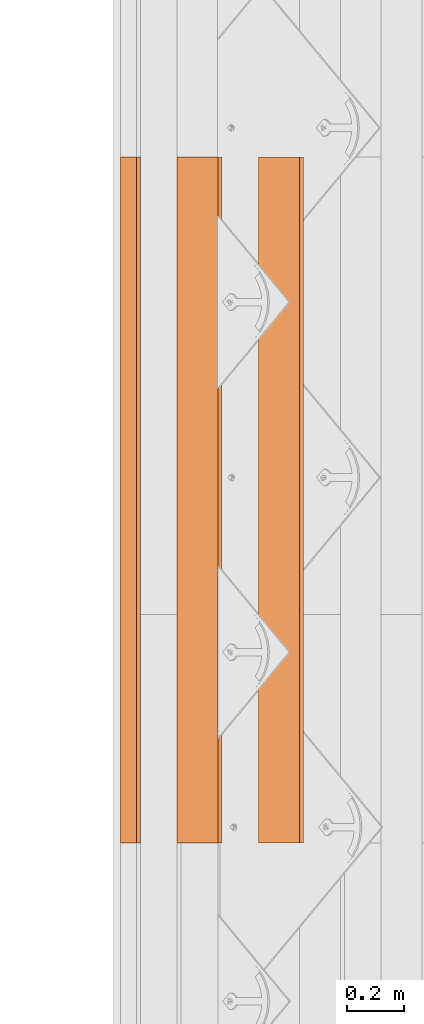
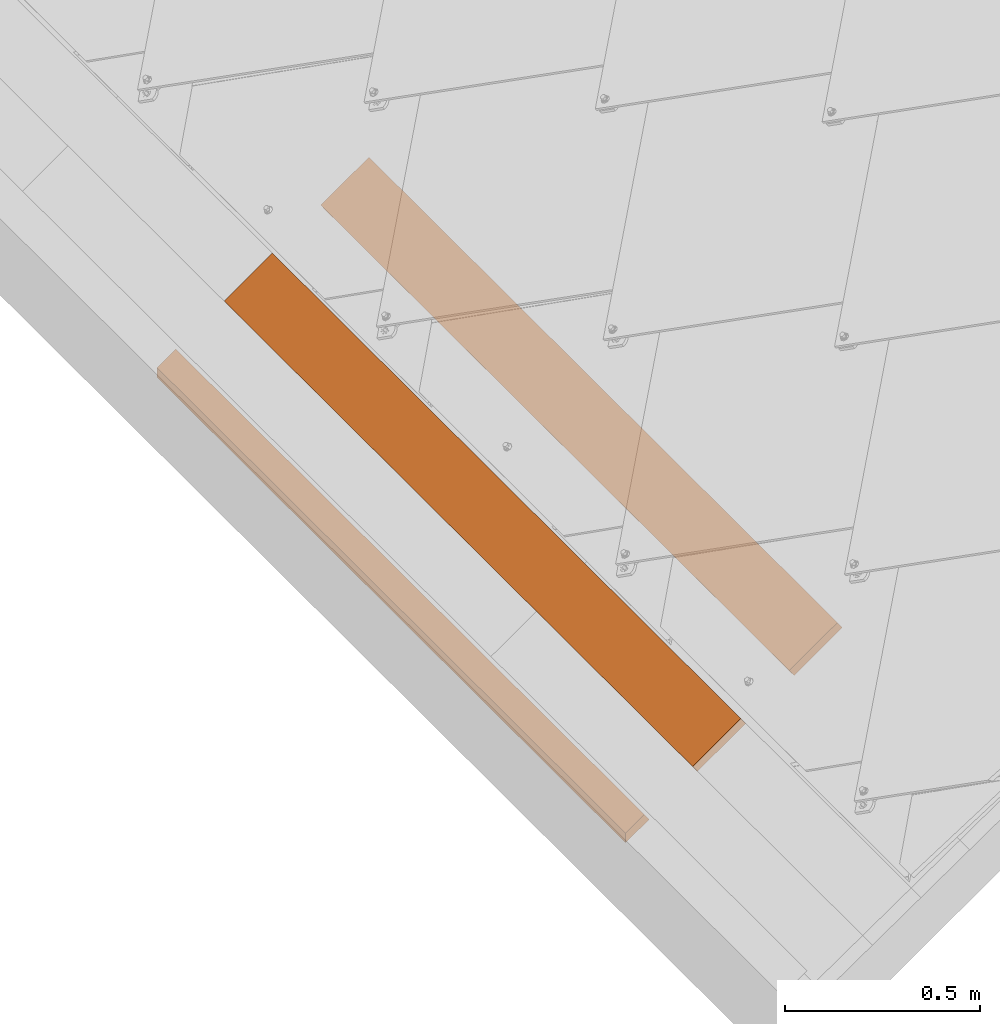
# One storey, part 24 of 151: 3 proxies, 1 element without a shape of its own.
"""IFC2X3 building model written with IfcOpenShell, lengths in millimetres."""

from ifc_helpers import new_model, entity, si_unit, converted_unit, derived_unit, direction, frame, frame_2d, origin, place, context, subcontext, project, spatial, polyline, rectangle, outline, extrude, source, transform, mapped, material, type_object, type_shapes, element, aggregate, save


model = new_model("IFC2X3")

# Units and contexts
model_context = context("Model", 3, precision=0.01, world=origin(), true_north=direction((6.12303176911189e-17, 1.0)))
body_context = subcontext(model_context, "Body", "Model", "MODEL_VIEW")
ifc_project = project(units=[si_unit("LENGTHUNIT", "METRE", prefix="MILLI"), si_unit("AREAUNIT", "SQUARE_METRE"), si_unit("VOLUMEUNIT", "CUBIC_METRE"), converted_unit("PLANEANGLEUNIT", "DEGREE", entity("IfcRatioMeasure", 0.0174532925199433), si_unit("PLANEANGLEUNIT", "RADIAN"), dimensions=[0, 0, 0, 0, 0, 0, 0]), si_unit("MASSUNIT", "GRAM", prefix="KILO"), derived_unit("MASSDENSITYUNIT", [(si_unit("MASSUNIT", "GRAM", prefix="KILO"), 1), (si_unit("LENGTHUNIT", "METRE"), -3)]), si_unit("TIMEUNIT", "SECOND"), si_unit("FREQUENCYUNIT", "HERTZ"), si_unit("THERMODYNAMICTEMPERATUREUNIT", "DEGREE_CELSIUS"), derived_unit("THERMALTRANSMITTANCEUNIT", [(si_unit("MASSUNIT", "GRAM", prefix="KILO"), 1), (si_unit("THERMODYNAMICTEMPERATUREUNIT", "KELVIN"), -1), (si_unit("TIMEUNIT", "SECOND"), -3)]), derived_unit("VOLUMETRICFLOWRATEUNIT", [(si_unit("LENGTHUNIT", "METRE"), 3), (si_unit("TIMEUNIT", "SECOND"), -1)]), si_unit("ELECTRICCURRENTUNIT", "AMPERE"), si_unit("ELECTRICVOLTAGEUNIT", "VOLT"), si_unit("POWERUNIT", "WATT"), si_unit("FORCEUNIT", "NEWTON", prefix="KILO"), si_unit("ILLUMINANCEUNIT", "LUX"), si_unit("LUMINOUSFLUXUNIT", "LUMEN"), si_unit("LUMINOUSINTENSITYUNIT", "CANDELA"), derived_unit("USERDEFINED", [(si_unit("MASSUNIT", "GRAM", prefix="KILO"), -1), (si_unit("LENGTHUNIT", "METRE"), -2), (si_unit("TIMEUNIT", "SECOND"), 3), (si_unit("LUMINOUSFLUXUNIT", "LUMEN"), 1)]), derived_unit("LINEARVELOCITYUNIT", [(si_unit("LENGTHUNIT", "METRE"), 1), (si_unit("TIMEUNIT", "SECOND"), -1)]), si_unit("PRESSUREUNIT", "PASCAL"), derived_unit("USERDEFINED", [(si_unit("LENGTHUNIT", "METRE"), -2), (si_unit("MASSUNIT", "GRAM", prefix="KILO"), 1), (si_unit("TIMEUNIT", "SECOND"), -2)])], contexts=[model_context])

# Site, building, storey
site_placement = place(None, origin())
site = spatial("IfcSite", under=ifc_project, at=site_placement, Name="Default", CompositionType="ELEMENT")
building_placement = place(site_placement, origin())
building = spatial("IfcBuilding", under=site, at=building_placement, CompositionType="ELEMENT")
storey_placement = place(building_placement, origin())
storey = spatial("IfcBuildingStorey", under=building, at=storey_placement, Name="Level 1", CompositionType="ELEMENT", Elevation=0.0)

# Assembly, proxies
assembly_placement = place(storey_placement, origin())
assembly = element("IfcElementAssembly", 1, at=assembly_placement, inside=storey, Name="Structural Framing Assembly:Roof Construction Assembly", ObjectType="Structural Framing Assembly:Roof Construction Assembly", AssemblyPlace="NOTDEFINED", PredefinedType="USERDEFINED")
ifc_material = material(Name="Wood - Generic - Wood For Showcase")
building_element_proxy_type_1 = type_object("IfcBuildingElementProxyType", Name="Structural Framing 15", PredefinedType="NOTDEFINED", material=ifc_material)
shared_shape_1 = source(origin(), body_context, "Body", "SweptSolid", [
    extrude(rectangle(XDim=24.9999999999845, YDim=174.344679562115, at=frame_2d((-1.77635683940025e-13, -4.54747350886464e-13), x_axis=(0.0, 1.0))), frame((1128.20180147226, 1595.55080214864, 2760.23940055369), z_axis=(0.0, 1.0, 0.0), x_axis=(-0.819152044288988, 0.0, -0.573576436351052)), (0.0, 0.0, 1.0), 2400.00000000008),
])
type_shapes(building_element_proxy_type_1, [shared_shape_1])
proxy_1_placement = place(assembly_placement, frame((-3227.25254439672, -5740.0, -2300.0)))
proxy_1 = element("IfcBuildingElementProxy", 2, at=proxy_1_placement, type_object=building_element_proxy_type_1, material=ifc_material, Name="Structural Framing 132:Structural Framing 15", ObjectType="Structural Framing 132:Structural Framing 15", context=body_context, shape_type="MappedRepresentation", body=[
    mapped(shared_shape_1, transform((0.0, 0.0, 0.0), scale=1.0)),
])
building_element_proxy_type_2 = type_object("IfcBuildingElementProxyType", Name="Structural Framing 15", PredefinedType="NOTDEFINED", material=ifc_material)
shared_shape_2 = source(origin(), body_context, "Body", "SweptSolid", [
    extrude(rectangle(XDim=24.9999999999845, YDim=174.344679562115, at=frame_2d((-1.77635683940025e-13, -4.54747350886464e-13), x_axis=(0.0, 1.0))), frame((1128.20180147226, 1595.55080214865, 2760.23940055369), z_axis=(0.0, 1.0, 0.0), x_axis=(-0.819152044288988, 0.0, -0.573576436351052)), (0.0, 0.0, 1.0), 2400.00000000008),
])
type_shapes(building_element_proxy_type_2, [shared_shape_2])
proxy_2_placement = place(assembly_placement, frame((-3512.88214574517, -5740.0, -2500.0)))
proxy_2 = element("IfcBuildingElementProxy", 3, at=proxy_2_placement, type_object=building_element_proxy_type_2, material=ifc_material, Name="Structural Framing 142:Structural Framing 15", ObjectType="Structural Framing 142:Structural Framing 15", context=body_context, shape_type="MappedRepresentation", body=[
    mapped(shared_shape_2, transform((0.0, 0.0, 0.0), scale=1.0)),
])
building_element_proxy_type_3 = type_object("IfcBuildingElementProxyType", Name="Structural Framing 15", PredefinedType="NOTDEFINED", material=ifc_material)
shared_shape_3 = source(origin(), body_context, "Body", "SweptSolid", [
    extrude(outline(polyline([(-38.2231230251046, -12.499999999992), (46.9757172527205, -12.499999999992), (29.4705287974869, 12.4999999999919), (-38.2231230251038, 12.4999999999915), (-38.2231230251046, -12.499999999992)])), frame((-2687.70096575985, -6511.94919785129, 88.3155178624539), z_axis=(0.0, 1.0, 0.0), x_axis=(-0.81915204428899, 0.0, -0.573576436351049)), (0.0, 0.0, 1.0), 2400.00000000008),
])
type_shapes(building_element_proxy_type_3, [shared_shape_3])
proxy_3_placement = place(assembly_placement, frame((57.4878711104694, 2367.49999999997, 0.0)))
proxy_3 = element("IfcBuildingElementProxy", 4, at=proxy_3_placement, type_object=building_element_proxy_type_3, material=ifc_material, Name="Structural Framing 151:Structural Framing 15", ObjectType="Structural Framing 151:Structural Framing 15", context=body_context, shape_type="MappedRepresentation", body=[
    mapped(shared_shape_3, transform((0.0, 0.0, 0.0), scale=1.0)),
])
aggregate(assembly, [proxy_1, proxy_2, proxy_3])

save(model, "model.ifc")
